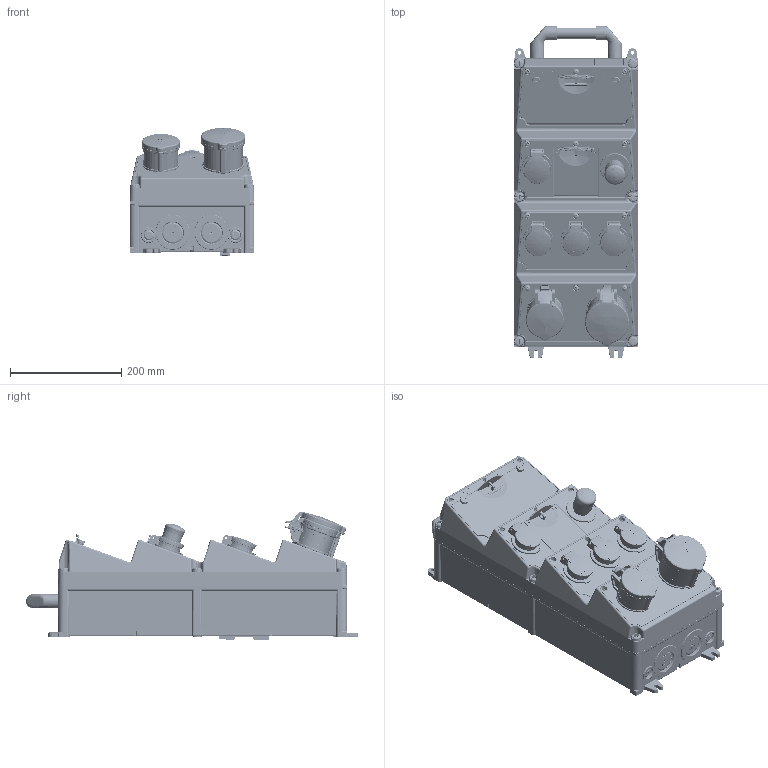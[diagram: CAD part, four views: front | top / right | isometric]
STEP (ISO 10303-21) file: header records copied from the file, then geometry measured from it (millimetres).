
FILE_DESCRIPTION((''),'2;1');
FILE_NAME('943510-5_ASM_1_ASM','2018-06-12T',('prakek'),('MENNEKES'),'PRO/ENGINEER BY PARAMETRIC TECHNOLOGY CORPORATION, 2015440','PRO/ENGINEER BY PARAMETRIC TECHNOLOGY CORPORATION, 2015440','');
FILE_SCHEMA(('AUTOMOTIVE_DESIGN { 1 0 10303 214 1 1 1 1 }'));
Products named in the file (20): 4-4_SW_O_GRAU_1; REG_1TE_BLIND_1; LS_4POL_4TE_1; LS_1POL_1TE_1; MANIFOLD_SOLID_BREP_337389; MANIFOLD_SOLID_BREP_425752; MANIFOLD_SOLID_BREP_426089; MANIFOLD_SOLID_BREP_428568; FI_4POL_4TE_1_ASM; M22_NOTAUS_DREHEN_1; MP_LEER_GRAU_1; MP_FEN4_44_OBEN_GRAU_1; MP_FEN10_67_OBEN_GRAU_1; AMAXX_TRAGEGRIFF_SCHWARZ_1; AMAXX_BLST_SCHWARZ_1; BAUTEIL_DUMMY__1; AMAXX_CEE_32_5_44_ROT_1; AMAXX_CEE_16_5_44_ROT_1; AMAXX_SCHUKO_44_BLAU_1; 943510-5_ASM_1_ASM
Assembly tree (25 placements, depth 3):
  943510-5_ASM_1_ASM
    4-4_SW_O_GRAU_1
    REG_1TE_BLIND_1
    LS_4POL_4TE_1  x2
    LS_1POL_1TE_1  x2
    FI_4POL_4TE_1_ASM
      MANIFOLD_SOLID_BREP_337389
      MANIFOLD_SOLID_BREP_425752
      MANIFOLD_SOLID_BREP_426089
      MANIFOLD_SOLID_BREP_428568
    M22_NOTAUS_DREHEN_1
    MP_LEER_GRAU_1  x2
    MP_FEN4_44_OBEN_GRAU_1
    MP_FEN10_67_OBEN_GRAU_1
    AMAXX_TRAGEGRIFF_SCHWARZ_1
    AMAXX_BLST_SCHWARZ_1
    BAUTEIL_DUMMY__1
    AMAXX_CEE_32_5_44_ROT_1
    AMAXX_CEE_16_5_44_ROT_1
    AMAXX_SCHUKO_44_BLAU_1  x4
Bounding box: 225 x 597.97 x 231.96 mm (x, y, z)
Volume: 13800357.6 mm3; surface area: 1458457.8 mm2
Topology: 23 solids, 23 shells, 16084 faces, 44603 edges, 28566 vertices
Faces by surface type: plane 7873, cylinder 4484, torus 1339, bspline 1299, cone 441, sphere 387, extrusion 261
Entity records: 607357 total; most frequent: CARTESIAN_POINT 170680, ORIENTED_EDGE 70248, DIRECTION 62118, EDGE_CURVE 35124, VERTEX_POINT 22446, PRESENTATION_STYLE_ASSIGNMENT 21587, AXIS2_PLACEMENT_3D 21553, STYLED_ITEM 20273
